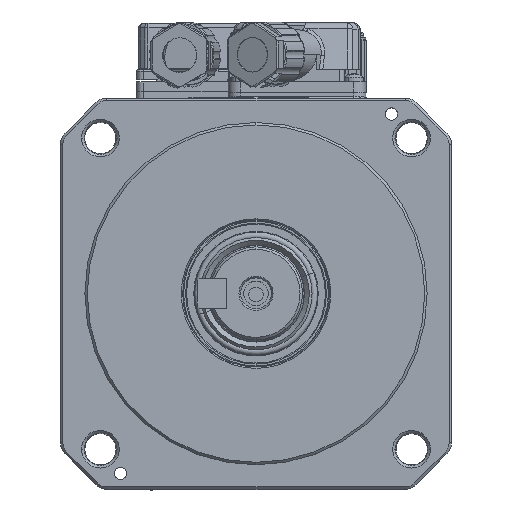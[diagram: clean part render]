
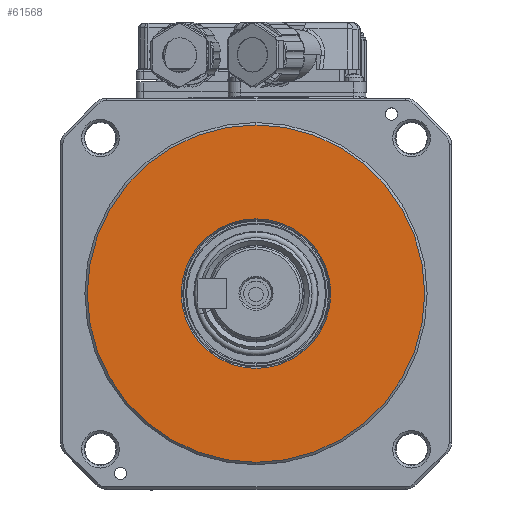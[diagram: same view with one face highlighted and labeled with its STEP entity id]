
A CAD part, top view. The second image highlights one B-rep face of the part: STEP entity #61568.
In plain terms, the highlighted planar face has unit normal (0, 0, 1).
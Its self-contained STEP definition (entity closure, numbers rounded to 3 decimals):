
#75 = VERTEX_POINT ( 'NONE', #61769 ) ;
#723 = CARTESIAN_POINT ( 'NONE',  ( 0., -15.289, 0. ) ) ;
#2235 = EDGE_LOOP ( 'NONE', ( #55072, #35262 ) ) ;
#4031 = AXIS2_PLACEMENT_3D ( 'NONE', #45597, #52175, #16011 ) ;
#5612 = EDGE_CURVE ( 'NONE', #66450, #68062, #76993, .T. ) ;
#7769 = EDGE_CURVE ( 'NONE', #75, #56793, #64878, .T. ) ;
#8346 = CARTESIAN_POINT ( 'NONE',  ( 0., 0., 0. ) ) ;
#15256 = DIRECTION ( 'NONE',  ( 0., -1., 0. ) ) ;
#16011 = DIRECTION ( 'NONE',  ( 0., -1., 0. ) ) ;
#19829 = CARTESIAN_POINT ( 'NONE',  ( 0., -34.5, 0. ) ) ;
#20769 = DIRECTION ( 'NONE',  ( 0., -1., 0. ) ) ;
#22675 = DIRECTION ( 'NONE',  ( 0., 0., 1. ) ) ;
#24856 = AXIS2_PLACEMENT_3D ( 'NONE', #8346, #38730, #20769 ) ;
#26406 = ORIENTED_EDGE ( 'NONE', *, *, #31833, .F. ) ;
#26954 = EDGE_LOOP ( 'NONE', ( #67173, #26406 ) ) ;
#27208 = FACE_OUTER_BOUND ( 'NONE', #2235, .T. ) ;
#27334 = CIRCLE ( 'NONE', #49666, 34.5 ) ;
#31833 = EDGE_CURVE ( 'NONE', #68062, #66450, #45210, .T. ) ;
#35262 = ORIENTED_EDGE ( 'NONE', *, *, #36722, .T. ) ;
#35766 = CARTESIAN_POINT ( 'NONE',  ( 0., 15.289, 0. ) ) ;
#35807 = CARTESIAN_POINT ( 'NONE',  ( 0., 14.7, 0. ) ) ;
#36722 = EDGE_CURVE ( 'NONE', #56793, #75, #27334, .T. ) ;
#38730 = DIRECTION ( 'NONE',  ( 0., 0., 1. ) ) ;
#42722 = DIRECTION ( 'NONE',  ( 0., 0., -1. ) ) ;
#45210 = CIRCLE ( 'NONE', #52646, 15.289 ) ;
#45597 = CARTESIAN_POINT ( 'NONE',  ( 0., 0., 0. ) ) ;
#49507 = CARTESIAN_POINT ( 'NONE',  ( 0., 0., 0. ) ) ;
#49666 = AXIS2_PLACEMENT_3D ( 'NONE', #49507, #56097, #15256 ) ;
#52175 = DIRECTION ( 'NONE',  ( 0., 0., 1. ) ) ;
#52606 = DIRECTION ( 'NONE',  ( 0., -1., 0. ) ) ;
#52646 = AXIS2_PLACEMENT_3D ( 'NONE', #59969, #22675, #52606 ) ;
#52960 = AXIS2_PLACEMENT_3D ( 'NONE', #35807, #42722, #53565 ) ;
#53565 = DIRECTION ( 'NONE',  ( 0., 1., 0. ) ) ;
#55072 = ORIENTED_EDGE ( 'NONE', *, *, #7769, .T. ) ;
#56097 = DIRECTION ( 'NONE',  ( 0., 0., 1. ) ) ;
#56793 = VERTEX_POINT ( 'NONE', #19829 ) ;
#58657 = FACE_BOUND ( 'NONE', #26954, .T. ) ;
#59969 = CARTESIAN_POINT ( 'NONE',  ( 0., 0., 0. ) ) ;
#61568 = ADVANCED_FACE ( 'NONE', ( #58657, #27208 ), #74629, .F. ) ;
#61769 = CARTESIAN_POINT ( 'NONE',  ( 0., 34.5, 0. ) ) ;
#64878 = CIRCLE ( 'NONE', #4031, 34.5 ) ;
#66450 = VERTEX_POINT ( 'NONE', #723 ) ;
#67173 = ORIENTED_EDGE ( 'NONE', *, *, #5612, .F. ) ;
#68062 = VERTEX_POINT ( 'NONE', #35766 ) ;
#74629 = PLANE ( 'NONE',  #52960 ) ;
#76993 = CIRCLE ( 'NONE', #24856, 15.289 ) ;
